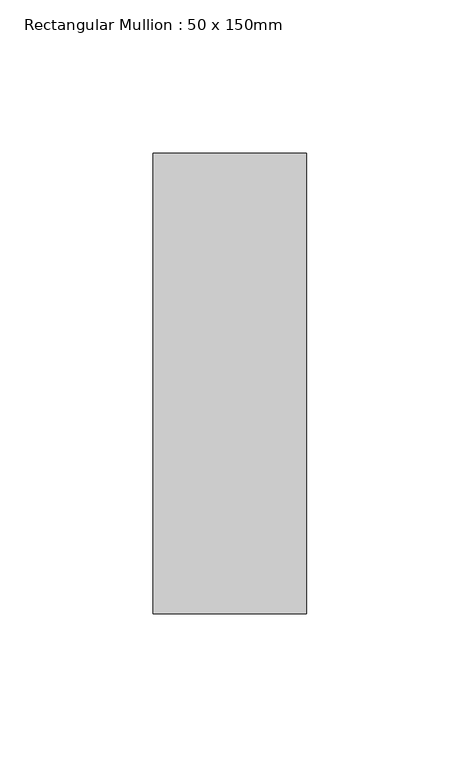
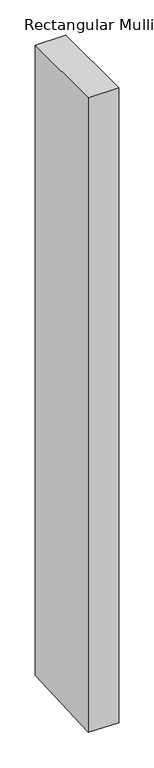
"""IFC4 building model written with IfcOpenShell, lengths in millimetres: member geometry, Rectangular Mullion : 50 x 150mm."""

from ifc_helpers import new_model, si_unit, origin, place, context, project, spatial, faceted_brep, source, transform, mapped, element, save


def rectangular_mullion_50_x_150mm_501e4033(model_context):
    return source(origin(), model_context, "Body", "Brep", [
        faceted_brep([(0.0, 75.0, 0.0), (-50.0, 75.0, 0.0), (-50.0, -75.0, 0.0), (0.0, -75.0, 0.0), (0.0, 75.0, -1091.2261594), (-50.0, 75.0, -1090.6305993), (-50.0, -75.0, -1098.6438951), (0.0, -75.0, -1099.2394551)], [[[0, 1, 2, 3]], [[1, 0, 4, 5]], [[2, 1, 5, 6]], [[3, 2, 6, 7]], [[0, 3, 7, 4]], [[4, 7, 6, 5]]]),
    ])


if __name__ == "__main__":
    model = new_model("IFC4")
    model_context = context("Model", 3, world=origin())
    ifc_project = project(units=[si_unit("LENGTHUNIT", "METRE", prefix="MILLI")], contexts=[model_context])
    site = spatial("IfcSite", under=ifc_project)
    building = spatial("IfcBuilding", under=site)
    placement = place(None, origin())
    rectangular_mullion_50_x_150mm_shape = rectangular_mullion_50_x_150mm_501e4033(model_context)
    element("IfcMember", 1, ObjectType="Rectangular Mullion : 50 x 150mm", at=placement, inside=building, context=model_context, shape_type="MappedRepresentation", body=[
        mapped(rectangular_mullion_50_x_150mm_shape, transform((0.0, 0.0, 0.0), x_axis=(1.0, 0.0, 0.0), y_axis=(0.0, 1.0, 0.0), z_axis=(0.0, 0.0, 1.0))),
    ])
    save(model, "model.ifc")
